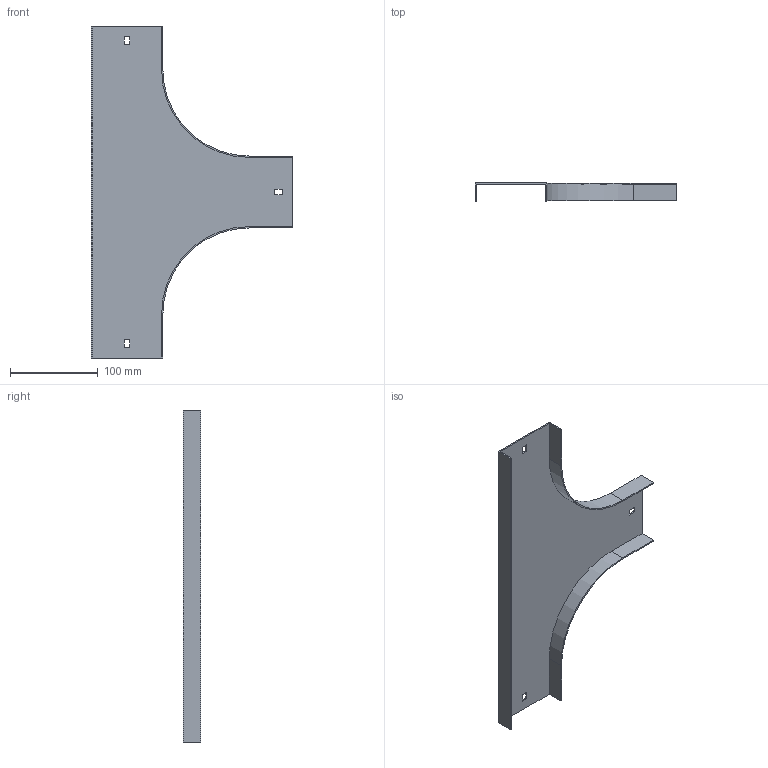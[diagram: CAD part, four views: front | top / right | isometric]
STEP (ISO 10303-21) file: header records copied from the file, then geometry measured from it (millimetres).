
FILE_DESCRIPTION (( 'STEP AP214' ), '1' );
FILE_NAME ('15N1R075.step', '2025-02-21T09:51:46', ( '' ), ( '' ), 'SwSTEP 2.0', 'SolidWorks 2023', '' );
FILE_SCHEMA (( 'AUTOMOTIVE_DESIGN' ));
Length unit declared in the file: millimetre
Products named in the file (1): 15N1R075
Bounding box: 230.5 x 20 x 379 mm (x, y, z)
Volume: 95585.4 mm3; surface area: 129454.9 mm2
Topology: 1 solids, 1 shells, 34 faces, 96 edges, 64 vertices
Faces by surface type: plane 30, cylinder 4
Entity records: 1123 total; most frequent: CARTESIAN_POINT 195, ORIENTED_EDGE 192, DIRECTION 174, EDGE_CURVE 96, LINE 88, VECTOR 88, VERTEX_POINT 64, AXIS2_PLACEMENT_3D 43
